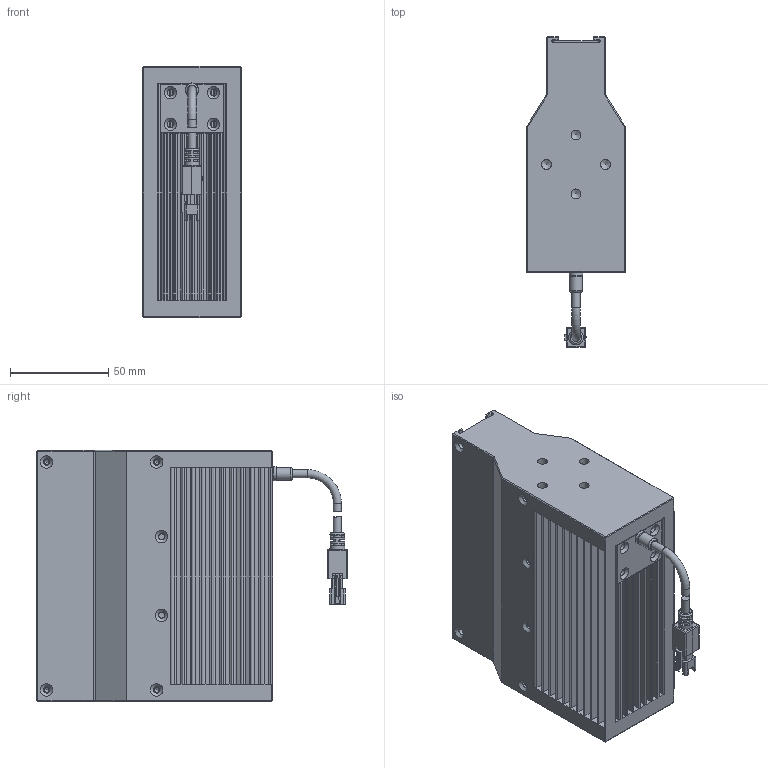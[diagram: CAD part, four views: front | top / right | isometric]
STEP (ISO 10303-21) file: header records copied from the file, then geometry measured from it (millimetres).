
FILE_DESCRIPTION (( 'STEP AP203' ), '1' );
FILE_NAME ('OPT-LSNL128-R-V1.0U尨砩芞.STEP', '2025-02-17T08:43:03', ( '' ), ( '' ), 'SwSTEP 2.0', 'SolidWorks 2016', '' );
FILE_SCHEMA (( 'CONFIG_CONTROL_DESIGN' ));
Length unit declared in the file: millimetre
Products named in the file (1): OPT-LSNL128-R-V1.0U尨砩芞
Bounding box: 50.02 x 158 x 128 mm (x, y, z)
Volume: 482211.3 mm3; surface area: 162728.3 mm2
Topology: 9 solids, 14 shells, 995 faces, 2735 edges, 1757 vertices
Faces by surface type: plane 598, cylinder 326, cone 42, bspline 21, torus 8
Full cylindrical faces by diameter (mm): 1.1 x2, 1.4 x2, 2.5 x8, 3 x8, 3.4 x16, 3.5 x1, 4.1 x4, 5 x8, 5.8 x1, 6.5 x1, 7 x1, 7.5 x1
Entity records: 33642 total; most frequent: CARTESIAN_POINT 9362, ORIENTED_EDGE 5160, DIRECTION 4716, EDGE_CURVE 2580, VERTEX_POINT 1708, LINE 1676, VECTOR 1676, AXIS2_PLACEMENT_3D 1520
